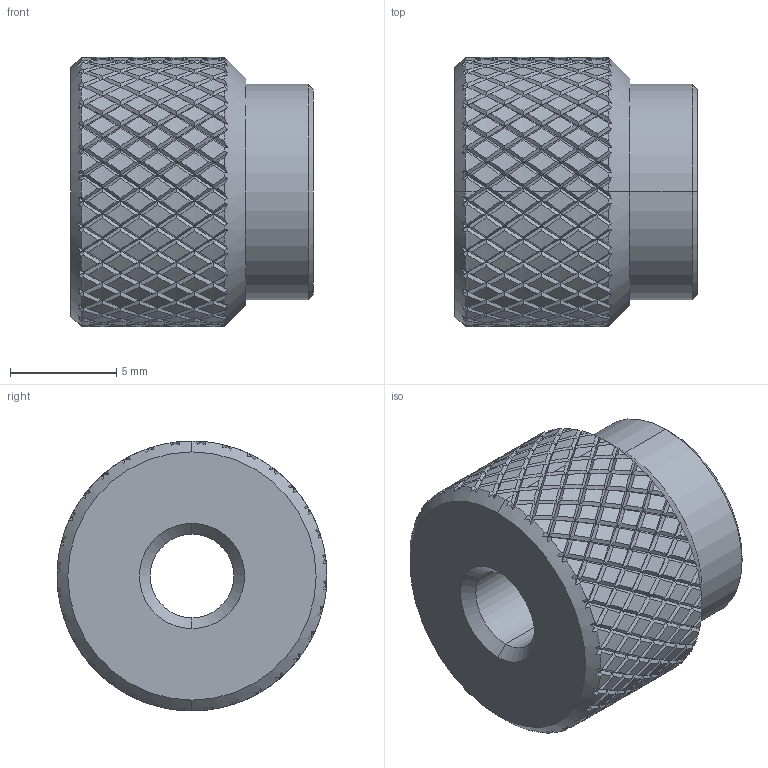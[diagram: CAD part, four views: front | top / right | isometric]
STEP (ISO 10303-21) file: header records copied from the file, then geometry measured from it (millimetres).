
FILE_DESCRIPTION (( 'STEP AP214' ), '1' );
FILE_NAME ('KB250-254.STEP', '2013-08-21T18:57:24', ( 'workpc' ), ( 'Microsoft' ), 'SwSTEP 2.0', 'SolidWorks 2013', '' );
FILE_SCHEMA (( 'AUTOMOTIVE_DESIGN' ));
Length unit declared in the file: inch
Products named in the file (1): KB250-254
Bounding box: 11.43 x 12.7 x 12.7 mm (x, y, z)
Volume: 1017.7 mm3; surface area: 860.8 mm2
Topology: 1 solids, 1 shells, 1469 faces, 3107 edges, 1642 vertices
Faces by surface type: bspline 1152, cylinder 303, cone 10, plane 4
Entity records: 67091 total; most frequent: CARTESIAN_POINT 49067, ORIENTED_EDGE 6214, EDGE_CURVE 3107, VERTEX_POINT 1642, EDGE_LOOP 1473, ADVANCED_FACE 1469, FACE_OUTER_BOUND 1469, DIRECTION 905
